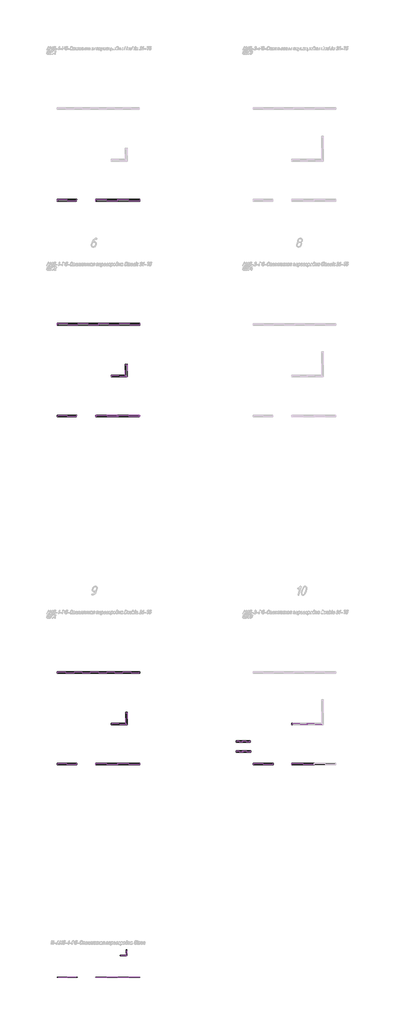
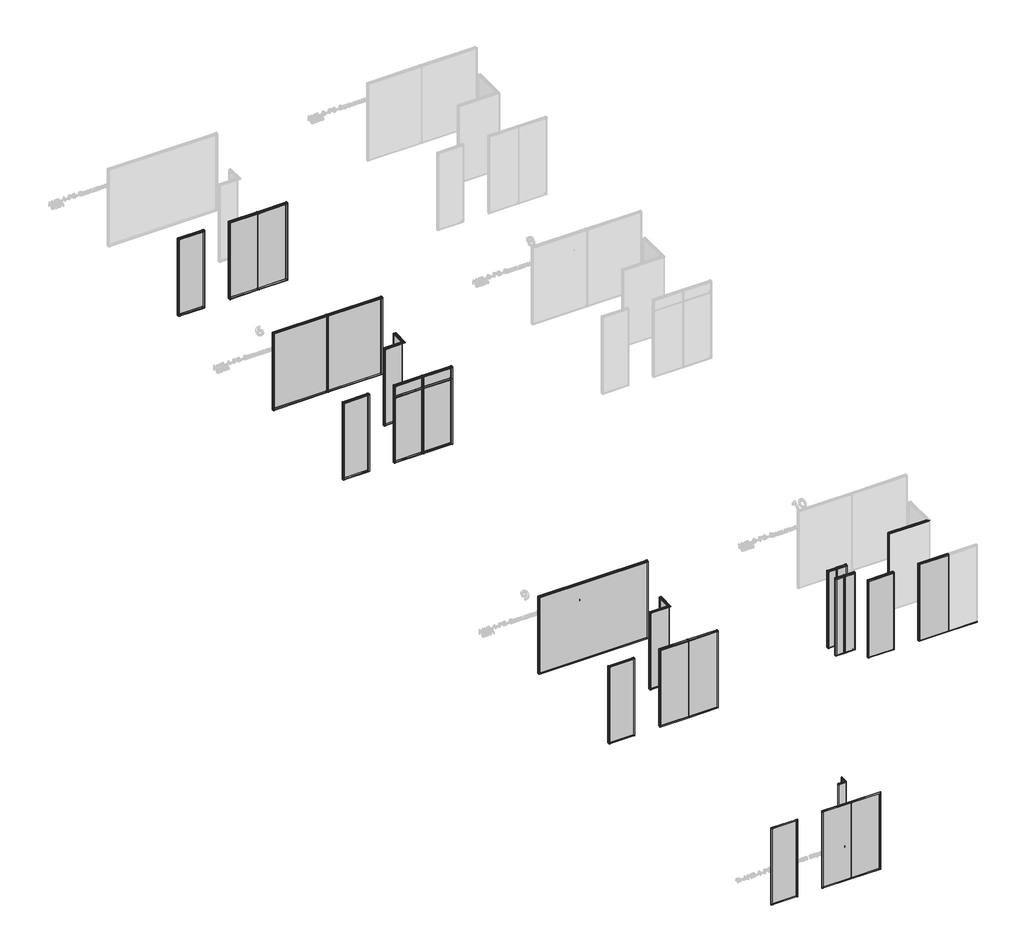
# One storey, part 1 of 22: 104 members, 29 plates.
"""IFC4 building model written with IfcOpenShell, lengths in millimetres."""

from ifc_helpers import new_model, si_unit, origin, place, context, project, spatial, transform, mapped, element, save
from components import member_3b858c64, member_9d05c48f, member_5f52b559, member_da22f294, member_8f46e934, member_62bc45fa, member_80aaf84b, member_e7f97213, member_5f075863, member_6272110b, member_c922cb29, member_1d8b72b8, member_eaf66a81, member_6e2d20ba, member_2fa9917d, member_f6f6942f, member_1e112815, member_e6ef7e3b, member_3ae6a51e, member_acdd2171, member_41f37cbb, member_4f9ec58e, member_084454fe, member_db7ca8c1, member_25cd3a2c, member_b1c232bb, member_a1fea0b4, member_2d650191, member_95ee6080, member_fb2a0350, member_b056f3ee, member_4342452b, member_e98824ab, member_972f2668, member_5bc96a58, member_950eede1, member_24111c01, member_b0658390, member_b6e07821, member_ffc32b5f, member_36321a98, member_348c47df, member_c1b2ecbe, member_24251dc7, member_520df2a5, member_db9ff38b, member_746a6d20, member_1ce3db48, member_d40cb624, member_3209a477, member_355e974f, member_2709d313, member_c30fd7d8, member_1f7af600, member_5557c804, member_62abe2fe, member_273d53b6, member_dfd8db85, member_2ce364fc, plate_9d82dc80, plate_dd258e1c, plate_0dbf4a9d, plate_3d63cd64, plate_558eb1f9, plate_38fda3b0, plate_6319510f, plate_0116b74f, plate_b8236d5b, plate_14d48185, plate_3ee4ef7e, plate_84db83da, plate_df924164, plate_d47c8c15, plate_3c743ba8, plate_f45a8219, plate_56ee4cc6, plate_1e9a3340, plate_76343fb0, plate_4803e426, plate_a01993f5, plate_5362bc71, plate_8324db89, plate_6f179efc, plate_14c2347e, plate_749ff60f, plate_7cb57ac8, plate_49787503

model = new_model("IFC4")

# Units and contexts
model_context = context("Model", 3, world=origin())
ifc_project = project(units=[si_unit("LENGTHUNIT", "METRE", prefix="MILLI")], contexts=[model_context])

# Site, building, storey
site = spatial("IfcSite", under=ifc_project)
building = spatial("IfcBuilding", under=site)
storey = spatial("IfcBuildingStorey", under=building, Name="Уровень 1", Elevation=0.0)

# Members
placement = place(None, origin())
member_shape = member_3b858c64(model_context)
element("IfcMember", 1, ObjectType="Прямоугольный импост : 11-AMG-1-Профиль (скотч 3М) 1 средний", at=placement, inside=storey, context=model_context, shape_type="MappedRepresentation", body=[
    mapped(member_shape, transform((-33009.1896408, -67835.1148653, 40.0), x_axis=(1.0, 0.0, 0.0), y_axis=(0.0, -1.0, 0.0), z_axis=(0.0, 0.0, -1.0))),
])
member_2_shape = member_9d05c48f(model_context)
element("IfcMember", 2, ObjectType="Прямоугольный импост : 11-AMG-1-Профиль 40Х18 Верх П", at=placement, inside=storey, context=model_context, shape_type="MappedRepresentation", body=[
    mapped(member_2_shape, transform((-32009.1896408, -67835.1148653, 40.0), x_axis=(1.0, 0.0, 0.0), y_axis=(0.0, -1.0, 0.0), z_axis=(0.0, 0.0, -1.0))),
])
element("IfcMember", 3, ObjectType="Прямоугольный импост : 11-AMG-1-Профиль 40Х18 Низ Л", at=placement, inside=storey, context=model_context, shape_type="MappedRepresentation", body=[
    mapped(member_2_shape, transform((-34009.1896408, -67835.1148653, 2760.0), x_axis=(-1.0, 0.0, 0.0), y_axis=(0.0, -1.0, 0.0), z_axis=(0.0, 0.0, 1.0))),
])
member_3_shape = member_5f52b559(model_context)
element("IfcMember", 4, ObjectType="Прямоугольный импост : 11-AMG-1-Профиль 40Х18 Верх П", at=placement, inside=storey, context=model_context, shape_type="MappedRepresentation", body=[
    mapped(member_3_shape, transform((-32009.1896408, -67835.1148653, 2800.0), x_axis=(0.0, 0.0, 1.0), y_axis=(0.0, -1.0, 0.0), z_axis=(1.0, 0.0, 0.0))),
])
element("IfcMember", 5, ObjectType="Прямоугольный импост : 11-AMG-1-Профиль 40Х18 Низ Л", at=placement, inside=storey, context=model_context, shape_type="MappedRepresentation", body=[
    mapped(member_3_shape, transform((-34009.1896408, -67835.1148653, 0.0), x_axis=(0.0, 0.0, -1.0), y_axis=(0.0, -1.0, 0.0), z_axis=(-1.0, 0.0, 0.0))),
])
element("IfcMember", 6, ObjectType="Прямоугольный импост : 11-AMG-1-Профиль 40Х18 Верх П", at=placement, inside=storey, context=model_context, shape_type="MappedRepresentation", body=[
    mapped(member_3_shape, transform((-33009.1896408, -67835.1148653, 2800.0), x_axis=(0.0, 0.0, 1.0), y_axis=(0.0, -1.0, 0.0), z_axis=(1.0, 0.0, 0.0))),
])
element("IfcMember", 7, ObjectType="Прямоугольный импост : 11-AMG-1-Профиль 40Х18 Низ Л", at=placement, inside=storey, context=model_context, shape_type="MappedRepresentation", body=[
    mapped(member_3_shape, transform((-33009.1896408, -67835.1148653, 0.0), x_axis=(0.0, 0.0, -1.0), y_axis=(0.0, -1.0, 0.0), z_axis=(-1.0, 0.0, 0.0))),
])
member_4_shape = member_da22f294(model_context)
element("IfcMember", 8, ObjectType="Прямоугольный импост : 11-AMG-1-Профиль 40Х18 Верх П", at=placement, inside=storey, context=model_context, shape_type="MappedRepresentation", body=[
    mapped(member_4_shape, transform((-34899.1896408, -67835.1148653, 2800.0), x_axis=(0.0, 0.0, 1.0), y_axis=(0.0, -1.0, 0.0), z_axis=(1.0, 0.0, 0.0))),
])
element("IfcMember", 9, ObjectType="Прямоугольный импост : 11-AMG-1-Профиль 40Х18 Низ Л", at=placement, inside=storey, context=model_context, shape_type="MappedRepresentation", body=[
    mapped(member_4_shape, transform((-35719.1896408, -67835.1148653, 0.0), x_axis=(0.0, 0.0, -1.0), y_axis=(0.0, -1.0, 0.0), z_axis=(-1.0, 0.0, 0.0))),
])
member_5_shape = member_8f46e934(model_context)
element("IfcMember", 10, ObjectType="Прямоугольный импост : 11-AMG-1-Профиль 40Х18 Верх П", at=placement, inside=storey, context=model_context, shape_type="MappedRepresentation", body=[
    mapped(member_5_shape, transform((-34859.1896408, -67835.1148653, 0.0), x_axis=(1.0, 0.0, 0.0), y_axis=(0.0, -1.0, 0.0), z_axis=(0.0, 0.0, -1.0))),
])
element("IfcMember", 11, ObjectType="Прямоугольный импост : 11-AMG-1-Профиль 40Х18 Верх П", at=placement, inside=storey, context=model_context, shape_type="MappedRepresentation", body=[
    mapped(member_5_shape, transform((-32903.5895059, -66845.3753969, 0.0), x_axis=(-1.0, 0.0, 0.0), y_axis=(0.0, 1.0, 0.0), z_axis=(0.0, 0.0, -1.0))),
])
element("IfcMember", 12, ObjectType="Прямоугольный импост : 11-AMG-1-Профиль 40Х18 Верх П", at=placement, inside=storey, context=model_context, shape_type="MappedRepresentation", body=[
    mapped(member_5_shape, transform((-32623.5895059, -66595.3753969, 0.0), x_axis=(0.0, 1.0, 0.0), y_axis=(1.0, 0.0, 0.0), z_axis=(0.0, 0.0, -1.0))),
])
element("IfcMember", 13, ObjectType="Прямоугольный импост : 11-AMG-1-Профиль 40Х18 Низ Л", at=placement, inside=storey, context=model_context, shape_type="MappedRepresentation", body=[
    mapped(member_5_shape, transform((-35759.1896408, -67835.1148653, 2800.0), x_axis=(-1.0, 0.0, 0.0), y_axis=(0.0, -1.0, 0.0), z_axis=(0.0, 0.0, 1.0))),
])
member_6_shape = member_62bc45fa(model_context)
element("IfcMember", 14, ObjectType="Прямоугольный импост : 11-AMG-1-Профиль 40Х18 Верх П", at=placement, inside=storey, context=model_context, shape_type="MappedRepresentation", body=[
    mapped(member_6_shape, transform((-32623.5895059, -66635.3753969, 2800.0), x_axis=(0.0, 0.0, 1.0), y_axis=(1.0, 0.0, 0.0), z_axis=(0.0, 1.0, 0.0))),
])
member_7_shape = member_80aaf84b(model_context)
element("IfcMember", 15, ObjectType="Прямоугольный импост : 11-AMG-1-Профиль 40Х18 Низ Л", at=placement, inside=storey, context=model_context, shape_type="MappedRepresentation", body=[
    mapped(member_7_shape, transform((-32623.5895059, -66845.3753969, 0.0), x_axis=(0.0, 0.0, -1.0), y_axis=(1.0, 0.0, 0.0), z_axis=(0.0, -1.0, 0.0))),
])
member_8_shape = member_e7f97213(model_context)
element("IfcMember", 16, ObjectType="Прямоугольный импост : 11-AMG-1-Профиль 40Х18 Верх П", at=placement, inside=storey, context=model_context, shape_type="MappedRepresentation", body=[
    mapped(member_8_shape, transform((-32863.5895059, -66845.3753969, 2800.0), x_axis=(0.0, 0.0, 1.0), y_axis=(0.0, 1.0, 0.0), z_axis=(-1.0, 0.0, 0.0))),
])
member_9_shape = member_5f075863(model_context)
element("IfcMember", 17, ObjectType="Прямоугольный импост : 11-AMG-1-Профиль 40Х18 Низ Л", at=placement, inside=storey, context=model_context, shape_type="MappedRepresentation", body=[
    mapped(member_9_shape, transform((-32623.5895059, -66845.3753969, 0.0), x_axis=(0.0, 0.0, -1.0), y_axis=(0.0, 1.0, 0.0), z_axis=(1.0, 0.0, 0.0))),
])
member_10_shape = member_6272110b(model_context)
element("IfcMember", 18, ObjectType="Прямоугольный импост : 5-AMG-1-Профиль 26Х75 Верх П", at=placement, inside=storey, context=model_context, shape_type="MappedRepresentation", body=[
    mapped(member_10_shape, transform((-34886.1896408, -32557.9669289, 2800.0), x_axis=(0.0, 0.0, 1.0), y_axis=(0.0, -1.0, 0.0), z_axis=(1.0, 0.0, 0.0))),
])
element("IfcMember", 19, ObjectType="Прямоугольный импост : 5-AMG-1-Профиль 26Х75 Верх П", at=placement, inside=storey, context=model_context, shape_type="MappedRepresentation", body=[
    mapped(member_10_shape, transform((-34886.1896408, -42357.9669289, 2800.0), x_axis=(0.0, 0.0, 1.0), y_axis=(0.0, -1.0, 0.0), z_axis=(1.0, 0.0, 0.0))),
])
member_11_shape = member_c922cb29(model_context)
element("IfcMember", 20, ObjectType="Прямоугольный импост : 5-AMG-1-Профиль 26Х75 Низ Л", at=placement, inside=storey, context=model_context, shape_type="MappedRepresentation", body=[
    mapped(member_11_shape, transform((-35732.1896408, -32557.9669289, 0.0), x_axis=(0.0, 0.0, -1.0), y_axis=(0.0, -1.0, 0.0), z_axis=(-1.0, 0.0, 0.0))),
])
element("IfcMember", 21, ObjectType="Прямоугольный импост : 5-AMG-1-Профиль 26Х75 Низ Л", at=placement, inside=storey, context=model_context, shape_type="MappedRepresentation", body=[
    mapped(member_11_shape, transform((-35732.1896408, -42357.9669289, 0.0), x_axis=(0.0, 0.0, -1.0), y_axis=(0.0, -1.0, 0.0), z_axis=(-1.0, 0.0, 0.0))),
])
member_12_shape = member_1d8b72b8(model_context)
element("IfcMember", 22, ObjectType="Прямоугольный импост : 5-AMG-1-Профиль 26Х75 Верх П", at=placement, inside=storey, context=model_context, shape_type="MappedRepresentation", body=[
    mapped(member_12_shape, transform((-32623.5895059, -40032.3753969, 2800.0), x_axis=(0.0, 0.0, 1.0), y_axis=(1.0, 0.0, 0.0), z_axis=(0.0, 1.0, 0.0))),
])
member_13_shape = member_eaf66a81(model_context)
element("IfcMember", 23, ObjectType="Прямоугольный импост : 5-AMG-1-Профиль 26Х75 Низ Л", at=placement, inside=storey, context=model_context, shape_type="MappedRepresentation", body=[
    mapped(member_13_shape, transform((-32623.5895059, -40545.3753969, 0.0), x_axis=(0.0, 0.0, -1.0), y_axis=(1.0, 0.0, 0.0), z_axis=(0.0, -1.0, 0.0))),
])
member_14_shape = member_6e2d20ba(model_context)
element("IfcMember", 24, ObjectType="Прямоугольный импост : 5-AMG-1-Профиль 26Х75 Верх П", at=placement, inside=storey, context=model_context, shape_type="MappedRepresentation", body=[
    mapped(member_14_shape, transform((-34859.1896408, -32557.9669289, 0.0), x_axis=(1.0, 0.0, 0.0), y_axis=(0.0, -1.0, 0.0), z_axis=(0.0, 0.0, -1.0))),
])
element("IfcMember", 25, ObjectType="Прямоугольный импост : 5-AMG-1-Профиль 26Х75 Верх П", at=placement, inside=storey, context=model_context, shape_type="MappedRepresentation", body=[
    mapped(member_14_shape, transform((-34859.1896408, -42357.9669289, 0.0), x_axis=(1.0, 0.0, 0.0), y_axis=(0.0, -1.0, 0.0), z_axis=(0.0, 0.0, -1.0))),
])
element("IfcMember", 26, ObjectType="Прямоугольный импост : 5-AMG-1-Профиль 26Х75 Верх П", at=placement, inside=storey, context=model_context, shape_type="MappedRepresentation", body=[
    mapped(member_14_shape, transform((-32623.5895059, -40005.3753969, 0.0), x_axis=(0.0, 1.0, 0.0), y_axis=(1.0, 0.0, 0.0), z_axis=(0.0, 0.0, -1.0))),
])
member_15_shape = member_2fa9917d(model_context)
element("IfcMember", 27, ObjectType="Прямоугольный импост : 5-AMG-1-Профиль 26Х75 Низ Л", at=placement, inside=storey, context=model_context, shape_type="MappedRepresentation", body=[
    mapped(member_15_shape, transform((-35759.1896408, -32557.9669289, 2800.0), x_axis=(-1.0, 0.0, 0.0), y_axis=(0.0, -1.0, 0.0), z_axis=(0.0, 0.0, 1.0))),
])
element("IfcMember", 28, ObjectType="Прямоугольный импост : 5-AMG-1-Профиль 26Х75 Низ Л", at=placement, inside=storey, context=model_context, shape_type="MappedRepresentation", body=[
    mapped(member_15_shape, transform((-35759.1896408, -42357.9669289, 2800.0), x_axis=(-1.0, 0.0, 0.0), y_axis=(0.0, -1.0, 0.0), z_axis=(0.0, 0.0, 1.0))),
])
member_16_shape = member_f6f6942f(model_context)
element("IfcMember", 29, ObjectType="Прямоугольный импост : 5-AMG-1-Профиль 26Х75 Верх П", at=placement, inside=storey, context=model_context, shape_type="MappedRepresentation", body=[
    mapped(member_16_shape, transform((-33276.5895059, -40545.3753969, 2800.0), x_axis=(0.0, 0.0, 1.0), y_axis=(0.0, 1.0, 0.0), z_axis=(-1.0, 0.0, 0.0))),
])
member_17_shape = member_1e112815(model_context)
element("IfcMember", 30, ObjectType="Прямоугольный импост : 5-AMG-1-Профиль 26Х75 Низ Л", at=placement, inside=storey, context=model_context, shape_type="MappedRepresentation", body=[
    mapped(member_17_shape, transform((-32623.5895059, -40545.3753969, 0.0), x_axis=(0.0, 0.0, -1.0), y_axis=(0.0, 1.0, 0.0), z_axis=(1.0, 0.0, 0.0))),
])
member_18_shape = member_e6ef7e3b(model_context)
element("IfcMember", 31, ObjectType="Прямоугольный импост : 5-AMG-1-Профиль 26Х75 Верх П", at=placement, inside=storey, context=model_context, shape_type="MappedRepresentation", body=[
    mapped(member_18_shape, transform((-33303.5895059, -40545.3753969, 0.0), x_axis=(-1.0, 0.0, 0.0), y_axis=(0.0, 1.0, 0.0), z_axis=(0.0, 0.0, -1.0))),
])
member_19_shape = member_3ae6a51e(model_context)
element("IfcMember", 32, ObjectType="Прямоугольный импост : 5-AMG-1-Профиль 26Х75 Верх П", at=placement, inside=storey, context=model_context, shape_type="MappedRepresentation", body=[
    mapped(member_19_shape, transform((-34009.1896408, -32557.9669289, 2800.0), x_axis=(0.0, 0.0, 1.0), y_axis=(0.0, 1.0, 0.0), z_axis=(-1.0, 0.0, 0.0))),
])
member_20_shape = member_acdd2171(model_context)
element("IfcMember", 33, ObjectType="Прямоугольный импост : 5-AMG-1-Профиль 26Х75 Низ Л", at=placement, inside=storey, context=model_context, shape_type="MappedRepresentation", body=[
    mapped(member_20_shape, transform((-32009.1896408, -32557.9669289, 0.0), x_axis=(0.0, 0.0, -1.0), y_axis=(0.0, 1.0, 0.0), z_axis=(1.0, 0.0, 0.0))),
])
element("IfcMember", 34, ObjectType="Прямоугольный импост : 5-AMG-1-Профиль 26Х75 Верх П", at=placement, inside=storey, context=model_context, shape_type="MappedRepresentation", body=[
    mapped(member_19_shape, transform((-33009.1896408, -32557.9669289, 2800.0), x_axis=(0.0, 0.0, 1.0), y_axis=(0.0, 1.0, 0.0), z_axis=(-1.0, 0.0, 0.0))),
])
element("IfcMember", 35, ObjectType="Прямоугольный импост : 5-AMG-1-Профиль 26Х75 Верх П", at=placement, inside=storey, context=model_context, shape_type="MappedRepresentation", body=[
    mapped(member_19_shape, transform((-33009.1896408, -42357.9669289, 2800.0), x_axis=(0.0, 0.0, 1.0), y_axis=(0.0, 1.0, 0.0), z_axis=(-1.0, 0.0, 0.0))),
])
element("IfcMember", 36, ObjectType="Прямоугольный импост : 5-AMG-1-Профиль 26Х75 Низ Л", at=placement, inside=storey, context=model_context, shape_type="MappedRepresentation", body=[
    mapped(member_20_shape, transform((-33009.1896408, -32557.9669289, 0.0), x_axis=(0.0, 0.0, -1.0), y_axis=(0.0, 1.0, 0.0), z_axis=(1.0, 0.0, 0.0))),
])
element("IfcMember", 37, ObjectType="Прямоугольный импост : 5-AMG-1-Профиль 26Х75 Низ Л", at=placement, inside=storey, context=model_context, shape_type="MappedRepresentation", body=[
    mapped(member_20_shape, transform((-33009.1896408, -42357.9669289, 0.0), x_axis=(0.0, 0.0, -1.0), y_axis=(0.0, 1.0, 0.0), z_axis=(1.0, 0.0, 0.0))),
])
member_21_shape = member_41f37cbb(model_context)
element("IfcMember", 38, ObjectType="Прямоугольный импост : 1-AMG-1-Профиль (скотч 3М) 1 средний", at=placement, inside=storey, context=model_context, shape_type="MappedRepresentation", body=[
    mapped(member_21_shape, transform((-33009.1896408, -32557.9669289, 27.0), x_axis=(-1.0, 0.0, 0.0), y_axis=(0.0, 1.0, 0.0), z_axis=(0.0, 0.0, -1.0))),
])
member_22_shape = member_4f9ec58e(model_context)
element("IfcMember", 39, ObjectType="Прямоугольный импост : 5-AMG-1-Профиль 26Х75 Верх П", at=placement, inside=storey, context=model_context, shape_type="MappedRepresentation", body=[
    mapped(member_22_shape, transform((-34009.1896408, -32557.9669289, 27.0), x_axis=(-1.0, 0.0, 0.0), y_axis=(0.0, 1.0, 0.0), z_axis=(0.0, 0.0, -1.0))),
])
member_23_shape = member_084454fe(model_context)
element("IfcMember", 40, ObjectType="Прямоугольный импост : 5-AMG-1-Профиль 26Х75 Низ Л", at=placement, inside=storey, context=model_context, shape_type="MappedRepresentation", body=[
    mapped(member_23_shape, transform((-32009.1896408, -32557.9669289, 2773.0), x_axis=(1.0, 0.0, 0.0), y_axis=(0.0, 1.0, 0.0), z_axis=(0.0, 0.0, 1.0))),
])
member_24_shape = member_db7ca8c1(model_context)
element("IfcMember", 41, ObjectType="Прямоугольный импост : 5-AMG-1-Профиль 26Х75 Верх П", at=placement, inside=storey, context=model_context, shape_type="MappedRepresentation", body=[
    mapped(member_24_shape, transform((-32009.1896408, -38192.7871042, 2800.0), x_axis=(0.0, 0.0, 1.0), y_axis=(0.0, -1.0, 0.0), z_axis=(1.0, 0.0, 0.0))),
])
member_25_shape = member_25cd3a2c(model_context)
element("IfcMember", 42, ObjectType="Прямоугольный импост : 5-AMG-1-Профиль 26Х75 Низ Л", at=placement, inside=storey, context=model_context, shape_type="MappedRepresentation", body=[
    mapped(member_25_shape, transform((-35759.1896408, -38192.7871042, 0.0), x_axis=(0.0, 0.0, -1.0), y_axis=(0.0, -1.0, 0.0), z_axis=(-1.0, 0.0, 0.0))),
])
element("IfcMember", 43, ObjectType="Прямоугольный импост : 5-AMG-1-Профиль 26Х75 Верх П", at=placement, inside=storey, context=model_context, shape_type="MappedRepresentation", body=[
    mapped(member_24_shape, transform((-33884.1896408, -38192.7871042, 2800.0), x_axis=(0.0, 0.0, 1.0), y_axis=(0.0, -1.0, 0.0), z_axis=(1.0, 0.0, 0.0))),
])
element("IfcMember", 44, ObjectType="Прямоугольный импост : 5-AMG-1-Профиль 26Х75 Низ Л", at=placement, inside=storey, context=model_context, shape_type="MappedRepresentation", body=[
    mapped(member_25_shape, transform((-33884.1896408, -38192.7871042, 0.0), x_axis=(0.0, 0.0, -1.0), y_axis=(0.0, -1.0, 0.0), z_axis=(-1.0, 0.0, 0.0))),
])
member_26_shape = member_b1c232bb(model_context)
element("IfcMember", 45, ObjectType="Прямоугольный импост : 5-AMG-1-Профиль 26Х75 Верх П", at=placement, inside=storey, context=model_context, shape_type="MappedRepresentation", body=[
    mapped(member_26_shape, transform((-32009.1896408, -38192.7871042, 27.0), x_axis=(1.0, 0.0, 0.0), y_axis=(0.0, -1.0, 0.0), z_axis=(0.0, 0.0, -1.0))),
])
member_27_shape = member_a1fea0b4(model_context)
element("IfcMember", 46, ObjectType="Прямоугольный импост : 5-AMG-1-Профиль 26Х75 Низ Л", at=placement, inside=storey, context=model_context, shape_type="MappedRepresentation", body=[
    mapped(member_27_shape, transform((-35759.1896408, -38192.7871042, 2773.0), x_axis=(-1.0, 0.0, 0.0), y_axis=(0.0, -1.0, 0.0), z_axis=(0.0, 0.0, 1.0))),
])
member_28_shape = member_2d650191(model_context)
element("IfcMember", 47, ObjectType="Прямоугольный импост : 2-AMG-1-Профиль 26Х75 Средний", at=placement, inside=storey, context=model_context, shape_type="MappedRepresentation", body=[
    mapped(member_28_shape, transform((-33884.1896408, -38192.7871042, 27.0), x_axis=(1.0, 0.0, 0.0), y_axis=(0.0, -1.0, 0.0), z_axis=(0.0, 0.0, -1.0))),
])
member_29_shape = member_95ee6080(model_context)
element("IfcMember", 48, ObjectType="Прямоугольный импост : 2-AMG-1-Профиль 26Х75 Средний", at=placement, inside=storey, context=model_context, shape_type="MappedRepresentation", body=[
    mapped(member_29_shape, transform((-33009.1896408, -42357.9669289, 2365.0), x_axis=(0.0, 0.0, 1.0), y_axis=(0.0, 1.0, 0.0), z_axis=(-1.0, 0.0, 0.0))),
])
element("IfcMember", 49, ObjectType="Прямоугольный импост : 2-AMG-1-Профиль 26Х75 Средний", at=placement, inside=storey, context=model_context, shape_type="MappedRepresentation", body=[
    mapped(member_29_shape, transform((-33982.1896408, -42357.9669289, 2365.0), x_axis=(0.0, 0.0, 1.0), y_axis=(0.0, 1.0, 0.0), z_axis=(-1.0, 0.0, 0.0))),
])
member_30_shape = member_fb2a0350(model_context)
element("IfcMember", 50, ObjectType="Прямоугольный импост : 5-AMG-1-Профиль 26Х75 Верх П", at=placement, inside=storey, context=model_context, shape_type="MappedRepresentation", body=[
    mapped(member_30_shape, transform((-33982.1896408, -42357.9669289, 2800.0), x_axis=(0.0, 0.0, 1.0), y_axis=(0.0, 1.0, 0.0), z_axis=(-1.0, 0.0, 0.0))),
])
member_31_shape = member_b056f3ee(model_context)
element("IfcMember", 51, ObjectType="Прямоугольный импост : 5-AMG-1-Профиль 26Х75 Низ Л", at=placement, inside=storey, context=model_context, shape_type="MappedRepresentation", body=[
    mapped(member_31_shape, transform((-32036.1896408, -42357.9669289, 0.0), x_axis=(0.0, 0.0, -1.0), y_axis=(0.0, 1.0, 0.0), z_axis=(1.0, 0.0, 0.0))),
])
member_32_shape = member_4342452b(model_context)
element("IfcMember", 52, ObjectType="Прямоугольный импост : 2-AMG-1-Профиль 26Х75 Средний", at=placement, inside=storey, context=model_context, shape_type="MappedRepresentation", body=[
    mapped(member_32_shape, transform((-33009.1896408, -42357.9669289, 27.0), x_axis=(-1.0, 0.0, 0.0), y_axis=(0.0, 1.0, 0.0), z_axis=(0.0, 0.0, -1.0))),
])
member_33_shape = member_e98824ab(model_context)
element("IfcMember", 53, ObjectType="Прямоугольный импост : 2-AMG-1-Профиль 26Х75 Средний", at=placement, inside=storey, context=model_context, shape_type="MappedRepresentation", body=[
    mapped(member_33_shape, transform((-33009.1896408, -42357.9669289, 2380.9976562), x_axis=(-1.0, 0.0, 0.0), y_axis=(0.0, 1.0, 0.0), z_axis=(0.0, 0.0, -1.0))),
])
member_34_shape = member_972f2668(model_context)
element("IfcMember", 54, ObjectType="Прямоугольный импост : 5-AMG-1-Профиль 26Х75 Верх П", at=placement, inside=storey, context=model_context, shape_type="MappedRepresentation", body=[
    mapped(member_34_shape, transform((-34009.1896408, -42357.9669289, 27.0), x_axis=(-1.0, 0.0, 0.0), y_axis=(0.0, 1.0, 0.0), z_axis=(0.0, 0.0, -1.0))),
])
member_35_shape = member_5bc96a58(model_context)
element("IfcMember", 55, ObjectType="Прямоугольный импост : 5-AMG-1-Профиль 26Х75 Низ Л", at=placement, inside=storey, context=model_context, shape_type="MappedRepresentation", body=[
    mapped(member_35_shape, transform((-32009.1896408, -42357.9669289, 2773.0), x_axis=(1.0, 0.0, 0.0), y_axis=(0.0, 1.0, 0.0), z_axis=(0.0, 0.0, 1.0))),
])
member_36_shape = member_950eede1(model_context)
element("IfcMember", 56, ObjectType="Прямоугольный импост : 5-AMG-1-Профиль 26Х75 Верх П", at=placement, inside=storey, context=model_context, shape_type="MappedRepresentation", body=[
    mapped(member_36_shape, transform((-34009.1896408, -42357.9669289, 2365.0), x_axis=(-1.0, 0.0, 0.0), y_axis=(0.0, 1.0, 0.0), z_axis=(0.0, 0.0, -1.0))),
])
member_37_shape = member_24111c01(model_context)
element("IfcMember", 57, ObjectType="Прямоугольный импост : 5-AMG-1-Профиль 26Х75 Низ Л", at=placement, inside=storey, context=model_context, shape_type="MappedRepresentation", body=[
    mapped(member_37_shape, transform((-32009.1896408, -42357.9669289, 2365.0), x_axis=(1.0, 0.0, 0.0), y_axis=(0.0, 1.0, 0.0), z_axis=(0.0, 0.0, 1.0))),
])
member_38_shape = member_b0658390(model_context)
element("IfcMember", 58, ObjectType="Прямоугольный импост : 9-AMG-1-Профиль 26Х73 Верх П", at=placement, inside=storey, context=model_context, shape_type="MappedRepresentation", body=[
    mapped(member_38_shape, transform((-32623.5895059, -55805.3753969, 0.0), x_axis=(0.0, 1.0, 0.0), y_axis=(1.0, 0.0, 0.0), z_axis=(0.0, 0.0, -1.0))),
])
element("IfcMember", 59, ObjectType="Прямоугольный импост : 9-AMG-1-Профиль 26Х73 Верх П", at=placement, inside=storey, context=model_context, shape_type="MappedRepresentation", body=[
    mapped(member_38_shape, transform((-32009.1896408, -53992.7871042, 0.0), x_axis=(1.0, 0.0, 0.0), y_axis=(0.0, -1.0, 0.0), z_axis=(0.0, 0.0, -1.0))),
])
element("IfcMember", 60, ObjectType="Прямоугольный импост : 9-AMG-1-Профиль 26Х73 Верх П", at=placement, inside=storey, context=model_context, shape_type="MappedRepresentation", body=[
    mapped(member_38_shape, transform((-34879.1896408, -58161.857719, 0.0), x_axis=(1.0, 0.0, 0.0), y_axis=(0.0, -1.0, 0.0), z_axis=(0.0, 0.0, -1.0))),
])
element("IfcMember", 61, ObjectType="Прямоугольный импост : 9-AMG-1-Профиль 26Х73 Верх П", at=placement, inside=storey, context=model_context, shape_type="MappedRepresentation", body=[
    mapped(member_38_shape, transform((-26987.4617785, -57129.7455469, 0.0), x_axis=(1.0, 0.0, 0.0), y_axis=(0.0, -1.0, 0.0), z_axis=(0.0, 0.0, -1.0))),
])
element("IfcMember", 62, ObjectType="Прямоугольный импост : 9-AMG-1-Профиль 26Х73 Низ Л", at=placement, inside=storey, context=model_context, shape_type="MappedRepresentation", body=[
    mapped(member_38_shape, transform((-35759.1896408, -53992.7871042, 2800.0), x_axis=(-1.0, 0.0, 0.0), y_axis=(0.0, -1.0, 0.0), z_axis=(0.0, 0.0, 1.0))),
])
element("IfcMember", 63, ObjectType="Прямоугольный импост : 9-AMG-1-Профиль 26Х73 Низ Л", at=placement, inside=storey, context=model_context, shape_type="MappedRepresentation", body=[
    mapped(member_38_shape, transform((-35759.1896408, -58161.857719, 2800.0), x_axis=(-1.0, 0.0, 0.0), y_axis=(0.0, -1.0, 0.0), z_axis=(0.0, 0.0, 1.0))),
])
member_39_shape = member_b6e07821(model_context)
element("IfcMember", 64, ObjectType="Прямоугольный импост : 9-AMG-1-Профиль 26Х73 Верх П", at=placement, inside=storey, context=model_context, shape_type="MappedRepresentation", body=[
    mapped(member_39_shape, transform((-32623.5895059, -55831.3753969, 2800.0), x_axis=(0.0, 0.0, 1.0), y_axis=(1.0, 0.0, 0.0), z_axis=(0.0, 1.0, 0.0))),
])
member_40_shape = member_ffc32b5f(model_context)
element("IfcMember", 65, ObjectType="Прямоугольный импост : 9-AMG-1-Профиль 26Х73 Низ Л", at=placement, inside=storey, context=model_context, shape_type="MappedRepresentation", body=[
    mapped(member_40_shape, transform((-32623.5895059, -56345.3753969, 0.0), x_axis=(0.0, 0.0, -1.0), y_axis=(1.0, 0.0, 0.0), z_axis=(0.0, -1.0, 0.0))),
])
member_41_shape = member_36321a98(model_context)
element("IfcMember", 66, ObjectType="Прямоугольный импост : 9-AMG-1-Профиль 26Х73 Верх П", at=placement, inside=storey, context=model_context, shape_type="MappedRepresentation", body=[
    mapped(member_41_shape, transform((-33303.5895059, -56345.3753969, 0.0), x_axis=(-1.0, 0.0, 0.0), y_axis=(0.0, 1.0, 0.0), z_axis=(0.0, 0.0, -1.0))),
])
member_42_shape = member_348c47df(model_context)
element("IfcMember", 67, ObjectType="Прямоугольный импост : 9-AMG-1-Профиль 26Х73 Верх П", at=placement, inside=storey, context=model_context, shape_type="MappedRepresentation", body=[
    mapped(member_42_shape, transform((-32035.1896408, -53992.7871042, 2800.0), x_axis=(0.0, 0.0, 1.0), y_axis=(0.0, -1.0, 0.0), z_axis=(1.0, 0.0, 0.0))),
])
element("IfcMember", 68, ObjectType="Прямоугольный импост : 9-AMG-1-Профиль 26Х73 Низ Л", at=placement, inside=storey, context=model_context, shape_type="MappedRepresentation", body=[
    mapped(member_42_shape, transform((-35733.1896408, -53992.7871042, 0.0), x_axis=(0.0, 0.0, -1.0), y_axis=(0.0, -1.0, 0.0), z_axis=(-1.0, 0.0, 0.0))),
])
member_43_shape = member_c1b2ecbe(model_context)
element("IfcMember", 69, ObjectType="Прямоугольный импост : 9-AMG-1-Профиль 26Х73 Верх П", at=placement, inside=storey, context=model_context, shape_type="MappedRepresentation", body=[
    mapped(member_43_shape, transform((-34009.1896408, -58157.9669289, 2800.0), x_axis=(0.0, 0.0, 1.0), y_axis=(0.0, 1.0, 0.0), z_axis=(-1.0, 0.0, 0.0))),
])
element("IfcMember", 70, ObjectType="Прямоугольный импост : 9-AMG-1-Профиль 26Х73 Низ Л", at=placement, inside=storey, context=model_context, shape_type="MappedRepresentation", body=[
    mapped(member_43_shape, transform((-32009.1896408, -58157.9669289, 0.0), x_axis=(0.0, 0.0, -1.0), y_axis=(0.0, 1.0, 0.0), z_axis=(1.0, 0.0, 0.0))),
])
element("IfcMember", 71, ObjectType="Прямоугольный импост : 9-AMG-1-Профиль 26Х73 Верх П", at=placement, inside=storey, context=model_context, shape_type="MappedRepresentation", body=[
    mapped(member_43_shape, transform((-33009.1896408, -58157.9669289, 2800.0), x_axis=(0.0, 0.0, 1.0), y_axis=(0.0, 1.0, 0.0), z_axis=(-1.0, 0.0, 0.0))),
])
element("IfcMember", 72, ObjectType="Прямоугольный импост : 9-AMG-1-Профиль 26Х73 Низ Л", at=placement, inside=storey, context=model_context, shape_type="MappedRepresentation", body=[
    mapped(member_43_shape, transform((-33009.1896408, -58157.9669289, 0.0), x_axis=(0.0, 0.0, -1.0), y_axis=(0.0, 1.0, 0.0), z_axis=(1.0, 0.0, 0.0))),
])
member_44_shape = member_24251dc7(model_context)
element("IfcMember", 73, ObjectType="Прямоугольный импост : 9-AMG-1-Профиль 26Х73 Верх П", at=placement, inside=storey, context=model_context, shape_type="MappedRepresentation", body=[
    mapped(member_44_shape, transform((-34009.1896408, -58157.9669289, 26.0), x_axis=(-1.0, 0.0, 0.0), y_axis=(0.0, 1.0, 0.0), z_axis=(0.0, 0.0, -1.0))),
])
element("IfcMember", 74, ObjectType="Прямоугольный импост : 9-AMG-1-Профиль 26Х73 Низ Л", at=placement, inside=storey, context=model_context, shape_type="MappedRepresentation", body=[
    mapped(member_44_shape, transform((-32009.1896408, -58157.9669289, 2774.0), x_axis=(1.0, 0.0, 0.0), y_axis=(0.0, 1.0, 0.0), z_axis=(0.0, 0.0, 1.0))),
])
member_45_shape = member_520df2a5(model_context)
element("IfcMember", 75, ObjectType="Прямоугольный импост : 10-AMG-2-Профиль 26Х73 Верх П", at=placement, inside=storey, context=model_context, shape_type="MappedRepresentation", body=[
    mapped(member_45_shape, transform((-25959.1896408, -58157.9669289, 0.0), x_axis=(1.0, 0.0, 0.0), y_axis=(0.0, -1.0, 0.0), z_axis=(0.0, 0.0, -1.0))),
])
element("IfcMember", 76, ObjectType="Прямоугольный импост : 10-AMG-2-Профиль 26Х73 Верх П", at=placement, inside=storey, context=model_context, shape_type="MappedRepresentation", body=[
    mapped(member_45_shape, transform((-27337.4617785, -57584.7455469, 0.0), x_axis=(1.0, 0.0, 0.0), y_axis=(0.0, -1.0, 0.0), z_axis=(0.0, 0.0, -1.0))),
])
element("IfcMember", 77, ObjectType="Прямоугольный импост : 10-AMG-2-Профиль 26Х73 Верх П", at=placement, inside=storey, context=model_context, shape_type="MappedRepresentation", body=[
    mapped(member_45_shape, transform((-26967.4617785, -57584.7455469, 0.0), x_axis=(1.0, 0.0, 0.0), y_axis=(0.0, -1.0, 0.0), z_axis=(0.0, 0.0, -1.0))),
])
element("IfcMember", 78, ObjectType="Прямоугольный импост : 10-AMG-2-Профиль 26Х73 Низ Л", at=placement, inside=storey, context=model_context, shape_type="MappedRepresentation", body=[
    mapped(member_45_shape, transform((-26859.1896408, -58157.9669289, 2800.0), x_axis=(-1.0, 0.0, 0.0), y_axis=(0.0, -1.0, 0.0), z_axis=(0.0, 0.0, 1.0))),
])
element("IfcMember", 79, ObjectType="Прямоугольный импост : 10-AMG-2-Профиль 26Х73 Низ Л", at=placement, inside=storey, context=model_context, shape_type="MappedRepresentation", body=[
    mapped(member_45_shape, transform((-27642.4617785, -57129.7455469, 2800.0), x_axis=(-1.0, 0.0, 0.0), y_axis=(0.0, -1.0, 0.0), z_axis=(0.0, 0.0, 1.0))),
])
element("IfcMember", 80, ObjectType="Прямоугольный импост : 10-AMG-2-Профиль 26Х73 Низ Л", at=placement, inside=storey, context=model_context, shape_type="MappedRepresentation", body=[
    mapped(member_45_shape, transform((-27642.4617785, -57584.7455469, 2800.0), x_axis=(-1.0, 0.0, 0.0), y_axis=(0.0, -1.0, 0.0), z_axis=(0.0, 0.0, 1.0))),
])
element("IfcMember", 81, ObjectType="Прямоугольный импост : 10-AMG-2-Профиль 26Х73 Низ Л", at=placement, inside=storey, context=model_context, shape_type="MappedRepresentation", body=[
    mapped(member_45_shape, transform((-27337.4617785, -57584.7455469, 2800.0), x_axis=(-1.0, 0.0, 0.0), y_axis=(0.0, -1.0, 0.0), z_axis=(0.0, 0.0, 1.0))),
])
member_46_shape = member_db9ff38b(model_context)
element("IfcMember", 82, ObjectType="Прямоугольный импост : 10-AMG-2-Профиль 26Х73 Верх П", at=placement, inside=storey, context=model_context, shape_type="MappedRepresentation", body=[
    mapped(member_46_shape, transform((-25109.1896408, -56345.3753969, 0.0), x_axis=(-1.0, 0.0, 0.0), y_axis=(0.0, 1.0, 0.0), z_axis=(0.0, 0.0, -1.0))),
])
member_47_shape = member_746a6d20(model_context)
element("IfcMember", 83, ObjectType="Прямоугольный импост : 10-AMG-2-Профиль 26Х73 Низ Л", at=placement, inside=storey, context=model_context, shape_type="MappedRepresentation", body=[
    mapped(member_47_shape, transform((-25109.1896408, -58157.9669289, 0.0), x_axis=(0.0, 0.0, -1.0), y_axis=(0.0, -1.0, 0.0), z_axis=(-1.0, 0.0, 0.0))),
])
element("IfcMember", 84, ObjectType="Прямоугольный импост : 10-AMG-2-Профиль 26Х73 Верх П", at=placement, inside=storey, context=model_context, shape_type="MappedRepresentation", body=[
    mapped(member_47_shape, transform((-24083.6907619, -58157.9669289, 2800.0), x_axis=(0.0, 0.0, 1.0), y_axis=(0.0, -1.0, 0.0), z_axis=(1.0, 0.0, 0.0))),
])
member_48_shape = member_1ce3db48(model_context)
element("IfcMember", 85, ObjectType="Прямоугольный импост : 10-AMG-2-Профиль 26Х73 Низ Л", at=placement, inside=storey, context=model_context, shape_type="MappedRepresentation", body=[
    mapped(member_48_shape, transform((-24083.6907619, -58157.9669289, 0.0), x_axis=(0.0, 0.0, -1.0), y_axis=(0.0, -1.0, 0.0), z_axis=(-1.0, 0.0, 0.0))),
])
member_49_shape = member_d40cb624(model_context)
element("IfcMember", 86, ObjectType="Прямоугольный импост : 10-AMG-2-Профиль 26Х73 Верх П", at=placement, inside=storey, context=model_context, shape_type="MappedRepresentation", body=[
    mapped(member_49_shape, transform((-25083.1896408, -56345.3753969, 2800.0), x_axis=(0.0, 0.0, 1.0), y_axis=(0.0, 1.0, 0.0), z_axis=(-1.0, 0.0, 0.0))),
])
member_50_shape = member_3209a477(model_context)
element("IfcMember", 87, ObjectType="Прямоугольный импост : 9-AMG-1-Профиль 26Х73 Верх П", at=placement, inside=storey, context=model_context, shape_type="MappedRepresentation", body=[
    mapped(member_50_shape, transform((-34905.1896408, -58161.857719, 2800.0), x_axis=(0.0, 0.0, 1.0), y_axis=(0.0, -1.0, 0.0), z_axis=(1.0, 0.0, 0.0))),
])
element("IfcMember", 88, ObjectType="Прямоугольный импост : 9-AMG-1-Профиль 26Х73 Низ Л", at=placement, inside=storey, context=model_context, shape_type="MappedRepresentation", body=[
    mapped(member_50_shape, transform((-35733.1896408, -58161.857719, 0.0), x_axis=(0.0, 0.0, -1.0), y_axis=(0.0, -1.0, 0.0), z_axis=(-1.0, 0.0, 0.0))),
])
member_51_shape = member_355e974f(model_context)
element("IfcMember", 89, ObjectType="Прямоугольный импост : 10-AMG-2-Профиль 26Х73 Верх П", at=placement, inside=storey, context=model_context, shape_type="MappedRepresentation", body=[
    mapped(member_51_shape, transform((-25985.1896408, -58157.9669289, 2800.0), x_axis=(0.0, 0.0, 1.0), y_axis=(0.0, -1.0, 0.0), z_axis=(1.0, 0.0, 0.0))),
])
element("IfcMember", 90, ObjectType="Прямоугольный импост : 10-AMG-2-Профиль 26Х73 Низ Л", at=placement, inside=storey, context=model_context, shape_type="MappedRepresentation", body=[
    mapped(member_51_shape, transform((-26833.1896408, -58157.9669289, 0.0), x_axis=(0.0, 0.0, -1.0), y_axis=(0.0, -1.0, 0.0), z_axis=(-1.0, 0.0, 0.0))),
])
member_52_shape = member_2709d313(model_context)
element("IfcMember", 91, ObjectType="Прямоугольный импост : 3-AMG-2-Профиль (скотч 3М) 1 средний", at=placement, inside=storey, context=model_context, shape_type="MappedRepresentation", body=[
    mapped(member_52_shape, transform((-24083.6907619, -58157.9669289, 26.0), x_axis=(1.0, 0.0, 0.0), y_axis=(0.0, -1.0, 0.0), z_axis=(0.0, 0.0, -1.0))),
])
member_53_shape = member_c30fd7d8(model_context)
element("IfcMember", 92, ObjectType="Прямоугольный импост : 10-AMG-2-Профиль 26Х73 Низ Л", at=placement, inside=storey, context=model_context, shape_type="MappedRepresentation", body=[
    mapped(member_53_shape, transform((-25109.1896408, -58157.9669289, 2774.0), x_axis=(-1.0, 0.0, 0.0), y_axis=(0.0, -1.0, 0.0), z_axis=(0.0, 0.0, 1.0))),
])
element("IfcMember", 93, ObjectType="Прямоугольный импост : 10-AMG-2-Профиль 26Х73 средний 2Х1", at=placement, inside=storey, context=model_context, shape_type="MappedRepresentation", body=[
    mapped(member_45_shape, transform((-27337.4617785, -57129.7455469, 0.0), x_axis=(1.0, 0.0, 0.0), y_axis=(0.0, -1.0, 0.0), z_axis=(0.0, 0.0, -1.0))),
])
member_54_shape = member_1f7af600(model_context)
element("IfcMember", 94, ObjectType="Прямоугольный импост : 9-AMG-1-Профиль 26Х73 Верх П", at=placement, inside=storey, context=model_context, shape_type="MappedRepresentation", body=[
    mapped(member_54_shape, transform((-27013.4617785, -57129.7455469, 2800.0), x_axis=(0.0, 0.0, 1.0), y_axis=(0.0, -1.0, 0.0), z_axis=(1.0, 0.0, 0.0))),
])
element("IfcMember", 95, ObjectType="Прямоугольный импост : 9-AMG-1-Профиль 26Х73 Низ Л", at=placement, inside=storey, context=model_context, shape_type="MappedRepresentation", body=[
    mapped(member_54_shape, transform((-27337.4617785, -57129.7455469, 0.0), x_axis=(0.0, 0.0, -1.0), y_axis=(0.0, -1.0, 0.0), z_axis=(-1.0, 0.0, 0.0))),
])
member_55_shape = member_5557c804(model_context)
element("IfcMember", 96, ObjectType="Прямоугольный импост : 10-AMG-2-Профиль 26Х73 Верх П", at=placement, inside=storey, context=model_context, shape_type="MappedRepresentation", body=[
    mapped(member_55_shape, transform((-27363.4617785, -57129.7455469, 2800.0), x_axis=(0.0, 0.0, 1.0), y_axis=(0.0, -1.0, 0.0), z_axis=(1.0, 0.0, 0.0))),
])
element("IfcMember", 97, ObjectType="Прямоугольный импост : 10-AMG-2-Профиль 26Х73 Верх П", at=placement, inside=storey, context=model_context, shape_type="MappedRepresentation", body=[
    mapped(member_55_shape, transform((-27363.4617785, -57584.7455469, 2800.0), x_axis=(0.0, 0.0, 1.0), y_axis=(0.0, -1.0, 0.0), z_axis=(1.0, 0.0, 0.0))),
])
element("IfcMember", 98, ObjectType="Прямоугольный импост : 10-AMG-2-Профиль 26Х73 Низ Л", at=placement, inside=storey, context=model_context, shape_type="MappedRepresentation", body=[
    mapped(member_55_shape, transform((-27616.4617785, -57129.7455469, 0.0), x_axis=(0.0, 0.0, -1.0), y_axis=(0.0, -1.0, 0.0), z_axis=(-1.0, 0.0, 0.0))),
])
element("IfcMember", 99, ObjectType="Прямоугольный импост : 10-AMG-2-Профиль 26Х73 Низ Л", at=placement, inside=storey, context=model_context, shape_type="MappedRepresentation", body=[
    mapped(member_55_shape, transform((-27616.4617785, -57584.7455469, 0.0), x_axis=(0.0, 0.0, -1.0), y_axis=(0.0, -1.0, 0.0), z_axis=(-1.0, 0.0, 0.0))),
])
member_56_shape = member_62abe2fe(model_context)
element("IfcMember", 100, ObjectType="Прямоугольный импост : 10-AMG-2-Профиль 26Х73 Верх П", at=placement, inside=storey, context=model_context, shape_type="MappedRepresentation", body=[
    mapped(member_56_shape, transform((-26993.4617785, -57584.7455469, 2800.0), x_axis=(0.0, 0.0, 1.0), y_axis=(0.0, -1.0, 0.0), z_axis=(1.0, 0.0, 0.0))),
])
element("IfcMember", 101, ObjectType="Прямоугольный импост : 10-AMG-2-Профиль 26Х73 Низ Л", at=placement, inside=storey, context=model_context, shape_type="MappedRepresentation", body=[
    mapped(member_56_shape, transform((-27311.4617785, -57584.7455469, 0.0), x_axis=(0.0, 0.0, -1.0), y_axis=(0.0, -1.0, 0.0), z_axis=(-1.0, 0.0, 0.0))),
])
member_57_shape = member_273d53b6(model_context)
element("IfcMember", 102, ObjectType="Прямоугольный импост : 9-AMG-1-Профиль 26Х73 Верх П", at=placement, inside=storey, context=model_context, shape_type="MappedRepresentation", body=[
    mapped(member_57_shape, transform((-33277.5895059, -56345.3753969, 2800.0), x_axis=(0.0, 0.0, 1.0), y_axis=(0.0, 1.0, 0.0), z_axis=(-1.0, 0.0, 0.0))),
])
member_58_shape = member_dfd8db85(model_context)
element("IfcMember", 103, ObjectType="Прямоугольный импост : 9-AMG-1-Профиль 26Х73 Низ Л", at=placement, inside=storey, context=model_context, shape_type="MappedRepresentation", body=[
    mapped(member_58_shape, transform((-32623.5895059, -56345.3753969, 0.0), x_axis=(0.0, 0.0, -1.0), y_axis=(0.0, 1.0, 0.0), z_axis=(1.0, 0.0, 0.0))),
])
member_59_shape = member_2ce364fc(model_context)
element("IfcMember", 104, ObjectType="Прямоугольный импост : 9-AMG-1-Профиль (скотч 3М) 1 средний", at=placement, inside=storey, context=model_context, shape_type="MappedRepresentation", body=[
    mapped(member_59_shape, transform((-33009.1896408, -58157.9669289, 26.0), x_axis=(-1.0, 0.0, 0.0), y_axis=(0.0, 1.0, 0.0), z_axis=(0.0, 0.0, -1.0))),
])

# Plates
plate_shape = plate_9d82dc80(model_context)
element("IfcPlate", 105, ObjectType="11-AMG-1-Панель одинарный витраж 10-12 : Центр Толщина 10mm", at=placement, inside=storey, context=model_context, shape_type="MappedRepresentation", body=[
    mapped(plate_shape, transform((-35309.1896408, -67835.1148653, 1.5), x_axis=(1.0, 0.0, 0.0), y_axis=(0.0, 1.0, 0.0), z_axis=(0.0, 0.0, 1.0))),
])
plate_2_shape = plate_dd258e1c(model_context)
element("IfcPlate", 106, ObjectType="11-AMG-1-Панель одинарный витраж 10-12 : Центр Толщина 10mm", at=placement, inside=storey, context=model_context, shape_type="MappedRepresentation", body=[
    mapped(plate_2_shape, transform((-33508.7042784, -67835.1148653, 1.5), x_axis=(1.0, 0.0, 0.0), y_axis=(0.0, 1.0, 0.0), z_axis=(0.0, 0.0, 1.0))),
])
plate_3_shape = plate_0dbf4a9d(model_context)
element("IfcPlate", 107, ObjectType="11-AMG-1-Панель одинарный витраж 10-12 : Центр Толщина 10mm", at=placement, inside=storey, context=model_context, shape_type="MappedRepresentation", body=[
    mapped(plate_3_shape, transform((-32509.685271, -67835.1148653, 1.5), x_axis=(1.0, 0.0, 0.0), y_axis=(0.0, 1.0, 0.0), z_axis=(0.0, 0.0, 1.0))),
])
plate_4_shape = plate_3d63cd64(model_context)
element("IfcPlate", 108, ObjectType="11-AMG-1-Панель одинарный витраж 10-12 : Центр Толщина 10mm", at=placement, inside=storey, context=model_context, shape_type="MappedRepresentation", body=[
    mapped(plate_4_shape, transform((-32623.5895059, -66721.1253969, 1.5), x_axis=(0.0, 1.0, 0.0), y_axis=(-1.0, 0.0, 0.0), z_axis=(0.0, 0.0, 1.0))),
])
plate_5_shape = plate_558eb1f9(model_context)
element("IfcPlate", 109, ObjectType="1-AMG-1-Панель одинарный витраж 8, 10 : Смещение 32 Толщина 8mm", at=placement, inside=storey, context=model_context, shape_type="MappedRepresentation", body=[
    mapped(plate_5_shape, transform((-35309.1896408, -32557.9669289, 27.0), x_axis=(1.0, 0.0, 0.0), y_axis=(0.0, 1.0, 0.0), z_axis=(0.0, 0.0, 1.0))),
])
element("IfcPlate", 110, ObjectType="1-AMG-1-Панель одинарный витраж 8, 10 : Смещение 32 Толщина 8mm", at=placement, inside=storey, context=model_context, shape_type="MappedRepresentation", body=[
    mapped(plate_5_shape, transform((-35309.1896408, -42357.9669289, 27.0), x_axis=(1.0, 0.0, 0.0), y_axis=(0.0, 1.0, 0.0), z_axis=(0.0, 0.0, 1.0))),
])
plate_6_shape = plate_38fda3b0(model_context)
element("IfcPlate", 111, ObjectType="1-AMG-1-Панель одинарный витраж 8, 10 : Смещение 32 Толщина 8mm", at=placement, inside=storey, context=model_context, shape_type="MappedRepresentation", body=[
    mapped(plate_6_shape, transform((-32623.5895059, -40288.8753969, 27.0), x_axis=(0.0, 1.0, 0.0), y_axis=(-1.0, 0.0, 0.0), z_axis=(0.0, 0.0, 1.0))),
])
plate_7_shape = plate_6319510f(model_context)
element("IfcPlate", 112, ObjectType="1-AMG-1-Панель одинарный витраж 8, 10 : Смещение 32 Толщина 8mm", at=placement, inside=storey, context=model_context, shape_type="MappedRepresentation", body=[
    mapped(plate_7_shape, transform((-32950.0895059, -40545.3753969, 27.0), x_axis=(-1.0, 0.0, 0.0), y_axis=(0.0, -1.0, 0.0), z_axis=(0.0, 0.0, 1.0))),
])
plate_8_shape = plate_0116b74f(model_context)
element("IfcPlate", 113, ObjectType="1-AMG-1-Панель одинарный витраж 8, 10 : Смещение 32 Толщина 8mm", at=placement, inside=storey, context=model_context, shape_type="MappedRepresentation", body=[
    mapped(plate_8_shape, transform((-32522.4250032, -32557.9669289, 27.0), x_axis=(-1.0, 0.0, 0.0), y_axis=(0.0, -1.0, 0.0), z_axis=(0.0, 0.0, 1.0))),
])
plate_9_shape = plate_b8236d5b(model_context)
element("IfcPlate", 114, ObjectType="1-AMG-1-Панель одинарный витраж 8, 10 : Смещение 32 Толщина 8mm", at=placement, inside=storey, context=model_context, shape_type="MappedRepresentation", body=[
    mapped(plate_9_shape, transform((-33495.9440106, -32557.9669289, 27.0), x_axis=(-1.0, 0.0, 0.0), y_axis=(0.0, -1.0, 0.0), z_axis=(0.0, 0.0, 1.0))),
])
plate_10_shape = plate_14d48185(model_context)
element("IfcPlate", 115, ObjectType="1-AMG-1-Панель одинарный витраж 8, 10 : Смещение 32 Толщина 8mm", at=placement, inside=storey, context=model_context, shape_type="MappedRepresentation", body=[
    mapped(plate_10_shape, transform((-34816.1908127, -38192.7871042, 27.0), x_axis=(1.0, 0.0, 0.0), y_axis=(0.0, 1.0, 0.0), z_axis=(0.0, 0.0, 1.0))),
])
plate_11_shape = plate_3ee4ef7e(model_context)
element("IfcPlate", 116, ObjectType="1-AMG-1-Панель одинарный витраж 8, 10 : Смещение 32 Толщина 8mm", at=placement, inside=storey, context=model_context, shape_type="MappedRepresentation", body=[
    mapped(plate_11_shape, transform((-32952.1908127, -38192.7871042, 27.0), x_axis=(1.0, 0.0, 0.0), y_axis=(0.0, 1.0, 0.0), z_axis=(0.0, 0.0, 1.0))),
])
plate_12_shape = plate_84db83da(model_context)
element("IfcPlate", 117, ObjectType="1-AMG-1-Панель одинарный витраж 8, 10 : Смещение 32 Толщина 8mm", at=placement, inside=storey, context=model_context, shape_type="MappedRepresentation", body=[
    mapped(plate_12_shape, transform((-32514.6884689, -42357.9669289, 27.0), x_axis=(-1.0, 0.0, 0.0), y_axis=(0.0, -1.0, 0.0), z_axis=(0.0, 0.0, 1.0))),
])
plate_13_shape = plate_df924164(model_context)
element("IfcPlate", 118, ObjectType="1-AMG-1-Панель одинарный витраж 8, 10 : Смещение 32 Толщина 8mm", at=placement, inside=storey, context=model_context, shape_type="MappedRepresentation", body=[
    mapped(plate_13_shape, transform((-33503.6884689, -42357.9669289, 27.0), x_axis=(-1.0, 0.0, 0.0), y_axis=(0.0, -1.0, 0.0), z_axis=(0.0, 0.0, 1.0))),
])
plate_14_shape = plate_d47c8c15(model_context)
element("IfcPlate", 119, ObjectType="1-AMG-1-Панель одинарный витраж 8, 10 : Смещение 32 Толщина 8mm", at=placement, inside=storey, context=model_context, shape_type="MappedRepresentation", body=[
    mapped(plate_14_shape, transform((-32514.6884689, -42357.9669289, 2380.9976562), x_axis=(-1.0, 0.0, 0.0), y_axis=(0.0, -1.0, 0.0), z_axis=(0.0, 0.0, 1.0))),
])
plate_15_shape = plate_3c743ba8(model_context)
element("IfcPlate", 120, ObjectType="1-AMG-1-Панель одинарный витраж 8, 10 : Смещение 32 Толщина 8mm", at=placement, inside=storey, context=model_context, shape_type="MappedRepresentation", body=[
    mapped(plate_15_shape, transform((-33503.6884689, -42357.9669289, 2380.9976562), x_axis=(-1.0, 0.0, 0.0), y_axis=(0.0, -1.0, 0.0), z_axis=(0.0, 0.0, 1.0))),
])
plate_16_shape = plate_f45a8219(model_context)
element("IfcPlate", 121, ObjectType="11-AMG-1-Панель одинарный витраж 10-12 : Центр Толщина 10mm", at=placement, inside=storey, context=model_context, shape_type="MappedRepresentation", body=[
    mapped(plate_16_shape, transform((-33884.1896408, -53992.7871042, 1.2), x_axis=(1.0, 0.0, 0.0), y_axis=(0.0, 1.0, 0.0), z_axis=(0.0, 0.0, 1.0))),
])
plate_17_shape = plate_56ee4cc6(model_context)
element("IfcPlate", 122, ObjectType="11-AMG-1-Панель одинарный витраж 10-12 : Центр Толщина 10mm", at=placement, inside=storey, context=model_context, shape_type="MappedRepresentation", body=[
    mapped(plate_17_shape, transform((-32509.5250032, -58157.9669289, 1.2), x_axis=(-1.0, 0.0, 0.0), y_axis=(0.0, -1.0, 0.0), z_axis=(0.0, 0.0, 1.0))),
])
plate_18_shape = plate_1e9a3340(model_context)
element("IfcPlate", 123, ObjectType="11-AMG-1-Панель одинарный витраж 10-12 : Центр Толщина 10mm", at=placement, inside=storey, context=model_context, shape_type="MappedRepresentation", body=[
    mapped(plate_18_shape, transform((-33508.8440106, -58157.9669289, 1.2), x_axis=(-1.0, 0.0, 0.0), y_axis=(0.0, -1.0, 0.0), z_axis=(0.0, 0.0, 1.0))),
])
plate_19_shape = plate_76343fb0(model_context)
element("IfcPlate", 124, ObjectType="11-AMG-1-Панель одинарный витраж 10-12 : Центр Толщина 10mm", at=placement, inside=storey, context=model_context, shape_type="MappedRepresentation", body=[
    mapped(plate_19_shape, transform((-35319.1896408, -58161.857719, 1.2), x_axis=(1.0, 0.0, 0.0), y_axis=(0.0, 1.0, 0.0), z_axis=(0.0, 0.0, 1.0))),
])
plate_20_shape = plate_4803e426(model_context)
element("IfcPlate", 125, ObjectType="10-AMG-2-Панель двойной витраж10 : Стекло 10mm", at=placement, inside=storey, context=model_context, shape_type="MappedRepresentation", body=[
    mapped(plate_20_shape, transform((-24583.7048389, -58157.9669289, 26.0), x_axis=(1.0, 0.0, 0.0), y_axis=(0.0, 1.0, 0.0), z_axis=(0.0, 0.0, 1.0))),
])
plate_21_shape = plate_a01993f5(model_context)
element("IfcPlate", 126, ObjectType="11-AMG-1-Панель одинарный витраж 10-12 : Центр Толщина 10mm", at=placement, inside=storey, context=model_context, shape_type="MappedRepresentation", body=[
    mapped(plate_21_shape, transform((-32623.5895059, -56075.9753969, 1.2), x_axis=(0.0, 1.0, 0.0), y_axis=(-1.0, 0.0, 0.0), z_axis=(0.0, 0.0, 1.0))),
])
plate_22_shape = plate_5362bc71(model_context)
element("IfcPlate", 127, ObjectType="11-AMG-1-Панель одинарный витраж 10-12 : Центр Толщина 10mm", at=placement, inside=storey, context=model_context, shape_type="MappedRepresentation", body=[
    mapped(plate_22_shape, transform((-32962.9895059, -56345.3753969, 1.2), x_axis=(-1.0, 0.0, 0.0), y_axis=(0.0, -1.0, 0.0), z_axis=(0.0, 0.0, 1.0))),
])
plate_23_shape = plate_8324db89(model_context)
element("IfcPlate", 128, ObjectType="11-AMG-1-Панель одинарный витраж 10-12 : Центр Толщина 10mm", at=placement, inside=storey, context=model_context, shape_type="MappedRepresentation", body=[
    mapped(plate_23_shape, transform((-32762.8395059, -66845.3753969, 1.5), x_axis=(-1.0, 0.0, 0.0), y_axis=(0.0, -1.0, 0.0), z_axis=(0.0, 0.0, 1.0))),
])
plate_24_shape = plate_6f179efc(model_context)
element("IfcPlate", 129, ObjectType="11-AMG-1-Панель одинарный витраж 10-12 : Центр Толщина 10mm", at=placement, inside=storey, context=model_context, shape_type="MappedRepresentation", body=[
    mapped(plate_24_shape, transform((-27163.0617785, -57129.7455469, 1.2), x_axis=(1.0, 0.0, 0.0), y_axis=(0.0, 1.0, 0.0), z_axis=(0.0, 0.0, 1.0))),
])
plate_25_shape = plate_14c2347e(model_context)
element("IfcPlate", 130, ObjectType="10-AMG-2-Панель двойной витраж16 ЛДСП : ЛДСП  Толщина 16", at=placement, inside=storey, context=model_context, shape_type="MappedRepresentation", body=[
    mapped(plate_25_shape, transform((-27489.9617785, -57584.7455469, 26.0), x_axis=(1.0, 0.0, 0.0), y_axis=(0.0, 1.0, 0.0), z_axis=(0.0, 0.0, 1.0))),
])
plate_26_shape = plate_749ff60f(model_context)
element("IfcPlate", 131, ObjectType="10-AMG-2-Панель двойной витраж10 : Стекло 10mm", at=placement, inside=storey, context=model_context, shape_type="MappedRepresentation", body=[
    mapped(plate_26_shape, transform((-27152.4617785, -57584.7455469, 26.0), x_axis=(1.0, 0.0, 0.0), y_axis=(0.0, 1.0, 0.0), z_axis=(0.0, 0.0, 1.0))),
])
plate_27_shape = plate_7cb57ac8(model_context)
element("IfcPlate", 132, ObjectType="10-AMG-2-Панель двойной витраж10 : Стекло 10mm", at=placement, inside=storey, context=model_context, shape_type="MappedRepresentation", body=[
    mapped(plate_27_shape, transform((-27489.9617785, -57129.7455469, 26.0), x_axis=(1.0, 0.0, 0.0), y_axis=(0.0, 1.0, 0.0), z_axis=(0.0, 0.0, 1.0))),
])
plate_28_shape = plate_49787503(model_context)
element("IfcPlate", 133, ObjectType="10-AMG-2-Панель двойной витраж10 : Стекло 10mm", at=placement, inside=storey, context=model_context, shape_type="MappedRepresentation", body=[
    mapped(plate_28_shape, transform((-26409.1896408, -58157.9669289, 26.0), x_axis=(1.0, 0.0, 0.0), y_axis=(0.0, 1.0, 0.0), z_axis=(0.0, 0.0, 1.0))),
])

save(model, "model.ifc")
